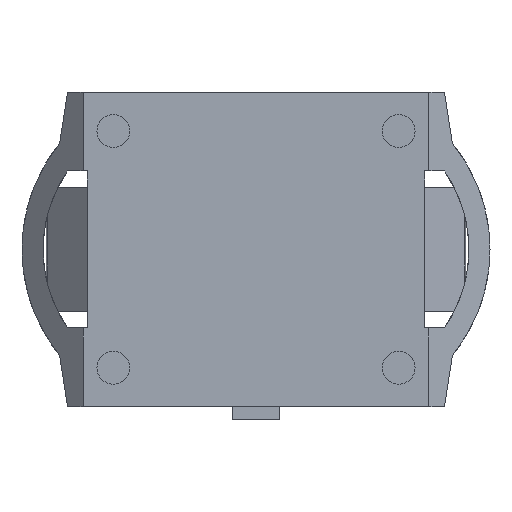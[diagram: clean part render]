
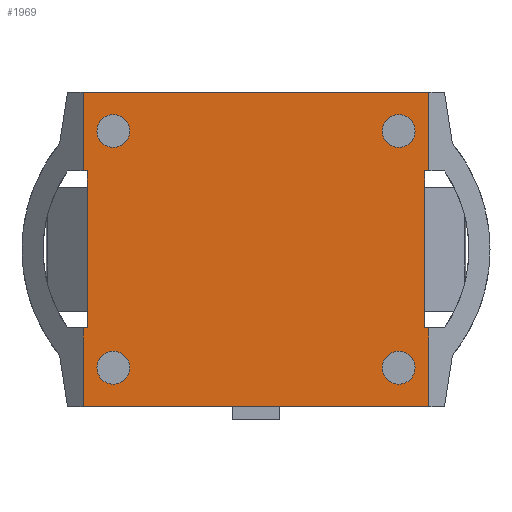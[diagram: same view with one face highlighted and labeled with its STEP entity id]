
A CAD part, front view. The second image highlights one B-rep face of the part: STEP entity #1969.
In plain terms, the highlighted planar face has unit normal (0, -1, 0).
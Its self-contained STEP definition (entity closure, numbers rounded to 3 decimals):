
#95=FACE_BOUND('',#342,.T.);
#96=FACE_BOUND('',#343,.T.);
#97=FACE_BOUND('',#344,.T.);
#98=FACE_BOUND('',#345,.T.);
#153=PLANE('',#2215);
#221=FACE_OUTER_BOUND('',#341,.T.);
#341=EDGE_LOOP('',(#1569,#1570,#1571,#1572,#1573,#1574,#1575,#1576,#1577,
#1578,#1579,#1580));
#342=EDGE_LOOP('',(#1581));
#343=EDGE_LOOP('',(#1582));
#344=EDGE_LOOP('',(#1583));
#345=EDGE_LOOP('',(#1584));
#444=LINE('',#2850,#650);
#458=LINE('',#2889,#664);
#462=LINE('',#2897,#668);
#466=LINE('',#2906,#672);
#469=LINE('',#2910,#675);
#484=LINE('',#2945,#690);
#495=LINE('',#2975,#701);
#501=LINE('',#2988,#707);
#504=LINE('',#2994,#710);
#507=LINE('',#3002,#713);
#511=LINE('',#3008,#717);
#520=LINE('',#3029,#726);
#650=VECTOR('',#2362,10.);
#664=VECTOR('',#2396,10.);
#668=VECTOR('',#2402,10.);
#672=VECTOR('',#2408,10.);
#675=VECTOR('',#2413,10.);
#690=VECTOR('',#2444,10.);
#701=VECTOR('',#2471,10.);
#707=VECTOR('',#2481,10.);
#710=VECTOR('',#2486,10.);
#713=VECTOR('',#2493,10.);
#717=VECTOR('',#2499,10.);
#726=VECTOR('',#2524,10.);
#840=CIRCLE('',#2156,12.5);
#842=CIRCLE('',#2160,12.5);
#844=CIRCLE('',#2164,12.5);
#846=CIRCLE('',#2168,12.5);
#890=VERTEX_POINT('',#2818);
#892=VERTEX_POINT('',#2825);
#894=VERTEX_POINT('',#2832);
#896=VERTEX_POINT('',#2839);
#899=VERTEX_POINT('',#2847);
#900=VERTEX_POINT('',#2849);
#914=VERTEX_POINT('',#2885);
#915=VERTEX_POINT('',#2888);
#918=VERTEX_POINT('',#2895);
#922=VERTEX_POINT('',#2905);
#933=VERTEX_POINT('',#2942);
#934=VERTEX_POINT('',#2944);
#945=VERTEX_POINT('',#2974);
#949=VERTEX_POINT('',#2985);
#950=VERTEX_POINT('',#2987);
#955=VERTEX_POINT('',#3000);
#1074=EDGE_CURVE('',#890,#890,#840,.T.);
#1077=EDGE_CURVE('',#892,#892,#842,.T.);
#1080=EDGE_CURVE('',#894,#894,#844,.T.);
#1083=EDGE_CURVE('',#896,#896,#846,.T.);
#1086=EDGE_CURVE('',#900,#899,#444,.T.);
#1105=EDGE_CURVE('',#900,#915,#458,.T.);
#1110=EDGE_CURVE('',#914,#918,#462,.T.);
#1114=EDGE_CURVE('',#914,#922,#466,.T.);
#1117=EDGE_CURVE('',#922,#899,#469,.T.);
#1134=EDGE_CURVE('',#933,#934,#484,.T.);
#1149=EDGE_CURVE('',#945,#915,#495,.T.);
#1155=EDGE_CURVE('',#949,#950,#501,.T.);
#1159=EDGE_CURVE('',#933,#945,#504,.T.);
#1163=EDGE_CURVE('',#949,#955,#507,.T.);
#1167=EDGE_CURVE('',#955,#934,#511,.T.);
#1178=EDGE_CURVE('',#950,#918,#520,.T.);
#1569=ORIENTED_EDGE('',*,*,#1167,.T.);
#1570=ORIENTED_EDGE('',*,*,#1134,.F.);
#1571=ORIENTED_EDGE('',*,*,#1159,.T.);
#1572=ORIENTED_EDGE('',*,*,#1149,.T.);
#1573=ORIENTED_EDGE('',*,*,#1105,.F.);
#1574=ORIENTED_EDGE('',*,*,#1086,.T.);
#1575=ORIENTED_EDGE('',*,*,#1117,.F.);
#1576=ORIENTED_EDGE('',*,*,#1114,.F.);
#1577=ORIENTED_EDGE('',*,*,#1110,.T.);
#1578=ORIENTED_EDGE('',*,*,#1178,.F.);
#1579=ORIENTED_EDGE('',*,*,#1155,.F.);
#1580=ORIENTED_EDGE('',*,*,#1163,.T.);
#1581=ORIENTED_EDGE('',*,*,#1074,.T.);
#1582=ORIENTED_EDGE('',*,*,#1077,.T.);
#1583=ORIENTED_EDGE('',*,*,#1080,.T.);
#1584=ORIENTED_EDGE('',*,*,#1083,.T.);
#1969=ADVANCED_FACE('',(#221,#95,#96,#97,#98),#153,.T.);
#2156=AXIS2_PLACEMENT_3D('',#2820,#2327,#2328);
#2160=AXIS2_PLACEMENT_3D('',#2827,#2336,#2337);
#2164=AXIS2_PLACEMENT_3D('',#2834,#2345,#2346);
#2168=AXIS2_PLACEMENT_3D('',#2841,#2354,#2355);
#2215=AXIS2_PLACEMENT_3D('',#3032,#2528,#2529);
#2327=DIRECTION('center_axis',(0.,1.,0.));
#2328=DIRECTION('ref_axis',(1.,0.,0.));
#2336=DIRECTION('center_axis',(0.,1.,0.));
#2337=DIRECTION('ref_axis',(1.,0.,0.));
#2345=DIRECTION('center_axis',(0.,1.,0.));
#2346=DIRECTION('ref_axis',(1.,0.,0.));
#2354=DIRECTION('center_axis',(0.,1.,0.));
#2355=DIRECTION('ref_axis',(1.,0.,0.));
#2362=DIRECTION('',(-1.,0.,0.));
#2396=DIRECTION('',(0.,0.,-1.));
#2402=DIRECTION('',(0.,0.,1.));
#2408=DIRECTION('',(-1.,0.,0.));
#2413=DIRECTION('',(0.,0.,-1.));
#2444=DIRECTION('',(1.,0.,0.));
#2471=DIRECTION('',(1.,0.,0.));
#2481=DIRECTION('',(0.,0.,1.));
#2486=DIRECTION('',(0.,0.,-1.));
#2493=DIRECTION('',(1.,0.,0.));
#2499=DIRECTION('',(0.,0.,-1.));
#2524=DIRECTION('',(1.,0.,0.));
#2528=DIRECTION('center_axis',(0.,-1.,0.));
#2529=DIRECTION('ref_axis',(1.,0.,0.));
#2818=CARTESIAN_POINT('',(-121.,-1.,-90.));
#2820=CARTESIAN_POINT('Origin',(-108.5,-1.,-90.));
#2825=CARTESIAN_POINT('',(96.,-1.,-90.));
#2827=CARTESIAN_POINT('Origin',(108.5,-1.,-90.));
#2832=CARTESIAN_POINT('',(96.,-1.,90.));
#2834=CARTESIAN_POINT('Origin',(108.5,-1.,90.));
#2839=CARTESIAN_POINT('',(-121.,-1.,90.));
#2841=CARTESIAN_POINT('Origin',(-108.5,-1.,90.));
#2847=CARTESIAN_POINT('',(128.222,-1.,-59.698));
#2849=CARTESIAN_POINT('',(131.538,-1.,-59.698));
#2850=CARTESIAN_POINT('',(129.88,-1.,-59.698));
#2885=CARTESIAN_POINT('',(131.538,-1.,59.698));
#2888=CARTESIAN_POINT('',(131.538,-1.,-119.696));
#2889=CARTESIAN_POINT('',(131.538,-1.,0.));
#2895=CARTESIAN_POINT('',(131.538,-1.,119.696));
#2897=CARTESIAN_POINT('',(131.538,-1.,0.));
#2905=CARTESIAN_POINT('',(128.222,-1.,59.698));
#2906=CARTESIAN_POINT('',(129.88,-1.,59.698));
#2910=CARTESIAN_POINT('',(128.222,-1.,0.));
#2942=CARTESIAN_POINT('',(-131.538,-1.,-59.698));
#2944=CARTESIAN_POINT('',(-128.222,-1.,-59.698));
#2945=CARTESIAN_POINT('',(-129.88,-1.,-59.698));
#2974=CARTESIAN_POINT('',(-131.538,-1.,-119.696));
#2975=CARTESIAN_POINT('',(0.,-1.,-119.696));
#2985=CARTESIAN_POINT('',(-131.538,-1.,59.698));
#2987=CARTESIAN_POINT('',(-131.538,-1.,119.696));
#2988=CARTESIAN_POINT('',(-131.538,-1.,0.));
#2994=CARTESIAN_POINT('',(-131.538,-1.,0.));
#3000=CARTESIAN_POINT('',(-128.222,-1.,59.698));
#3002=CARTESIAN_POINT('',(-129.88,-1.,59.698));
#3008=CARTESIAN_POINT('',(-128.222,-1.,0.));
#3029=CARTESIAN_POINT('',(0.,-1.,119.696));
#3032=CARTESIAN_POINT('Origin',(-131.538,-1.,0.));
